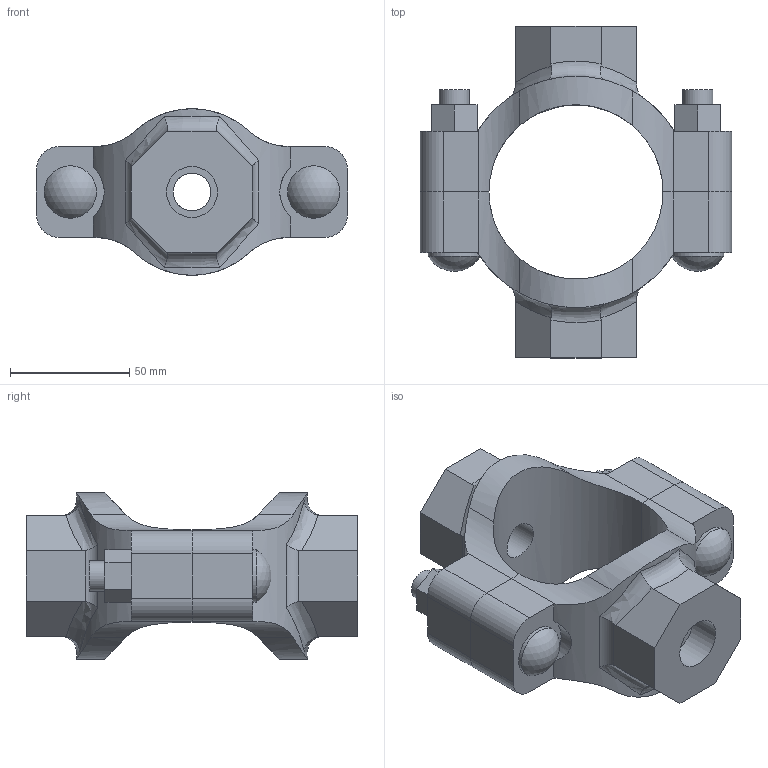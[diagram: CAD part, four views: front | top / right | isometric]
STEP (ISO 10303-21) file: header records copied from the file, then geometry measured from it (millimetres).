
FILE_DESCRIPTION(/* description */ ('VIC MECH-T BRANCH OUTLET CROSS STYLE 920N (THD)','CAx-IF Rec.Pracs.---Representation and Presentation of Product Manufacturing Information (PMI)---4.0---2014-10-13'),/* implementation_level */ '2;1');
FILE_NAME(/* name */ 'C:\Users\Vjadhav\AppData\Roaming\Autodesk\ApplicationPlugins\Back Up\Victaulic_IPS_Mechanical-Cross Outlet_Style 920N (FPT)\Victaulic_IPS_Mechanical-Cross Outlet_02.5x0.5x0.5 (65x15x15).stp',/* time_stamp */ '2020-08-06T18:56:19+05:00',/* author */ ('Vjadhav'),/* organization */ ('Victaulic'),/* preprocessor_version */ 'ST-DEVELOPER v17.2',/* originating_system */ 'Autodesk Inventor 2019',/* authorisation */ '');
FILE_SCHEMA (('AP242_MANAGED_MODEL_BASED_3D_ENGINEERING_MIM_LF { 1 0 10303 442 1 1 4 }'));
Length unit declared in the file: inch
Products named in the file (3): 920NT-02.5x0.5x0.5; 920NT-02.5x0.5; 920NT-02.5x0.5_1
Assembly tree (2 placements, depth 2):
  920NT-02.5x0.5x0.5
    920NT-02.5x0.5
    920NT-02.5x0.5_1
Bounding box: 130.56 x 139.19 x 69.84 mm (x, y, z)
Volume: 310549.7 mm3; surface area: 66890.2 mm2
Topology: 2 solids, 2 shells, 132 faces, 350 edges, 236 vertices
Faces by surface type: plane 68, cylinder 50, bspline 8, torus 4, sphere 2
Full cylindrical faces by diameter (mm): 12.7 x4, 15.799 x2, 21.336 x2, 21.982 x2
Entity records: 5054 total; most frequent: CARTESIAN_POINT 1541, ORIENTED_EDGE 700, DIRECTION 648, EDGE_CURVE 350, VERTEX_POINT 236, AXIS2_PLACEMENT_3D 231, LINE 186, VECTOR 186
